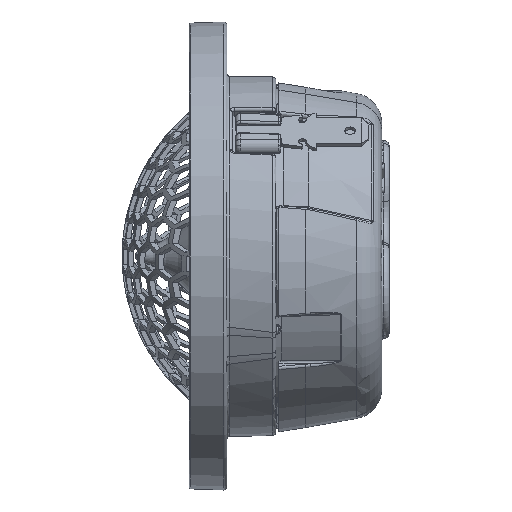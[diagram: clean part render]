
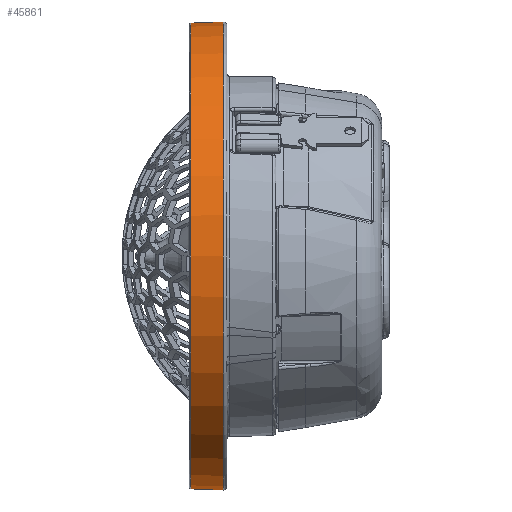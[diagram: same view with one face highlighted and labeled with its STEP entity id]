
A CAD part, left-side view. The second image highlights one B-rep face of the part: STEP entity #45861.
In plain terms, the highlighted conical face has half-angle 2 degrees and reference radius 30.975 mm.
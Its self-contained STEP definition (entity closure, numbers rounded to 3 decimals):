
#1538 = DIRECTION ( 'NONE',  ( 0., -1., 0. ) ) ;
#6438 = CARTESIAN_POINT ( 'NONE',  ( 0., 20.995, -30.957 ) ) ;
#12397 = VERTEX_POINT ( 'NONE', #28857 ) ;
#12883 = DIRECTION ( 'NONE',  ( 0., -0.999, 0.035 ) ) ;
#13838 = ORIENTED_EDGE ( 'NONE', *, *, #67620, .T. ) ;
#15044 = CARTESIAN_POINT ( 'NONE',  ( 0., 25.284, 30.807 ) ) ;
#15662 = CONICAL_SURFACE ( 'NONE', #22123, 30.975, 0.035 ) ;
#16483 = DIRECTION ( 'NONE',  ( 0., -0.999, -0.035 ) ) ;
#16784 = CARTESIAN_POINT ( 'NONE',  ( 0., 20.995, 0. ) ) ;
#19343 = CARTESIAN_POINT ( 'NONE',  ( 0., 20.477, 0. ) ) ;
#19581 = EDGE_CURVE ( 'NONE', #12397, #28747, #41151, .T. ) ;
#19912 = VECTOR ( 'NONE', #12883, 1000. ) ;
#20956 = DIRECTION ( 'NONE',  ( 0., 0., 1. ) ) ;
#22123 = AXIS2_PLACEMENT_3D ( 'NONE', #19343, #1538, #20956 ) ;
#22555 = CARTESIAN_POINT ( 'NONE',  ( 0., 20.477, -30.975 ) ) ;
#25400 = LINE ( 'NONE', #44841, #19912 ) ;
#26866 = DIRECTION ( 'NONE',  ( 0., -1., 0. ) ) ;
#28747 = VERTEX_POINT ( 'NONE', #6438 ) ;
#28857 = CARTESIAN_POINT ( 'NONE',  ( 0., 25.284, -30.807 ) ) ;
#30109 = EDGE_CURVE ( 'NONE', #56564, #12397, #46882, .T. ) ;
#32707 = FACE_OUTER_BOUND ( 'NONE', #79857, .T. ) ;
#34573 = VECTOR ( 'NONE', #16483, 1000. ) ;
#37399 = VERTEX_POINT ( 'NONE', #75450 ) ;
#41151 = LINE ( 'NONE', #22555, #34573 ) ;
#44841 = CARTESIAN_POINT ( 'NONE',  ( 0., 20.477, 30.975 ) ) ;
#45103 = DIRECTION ( 'NONE',  ( 0., 0., 1. ) ) ;
#45861 = ADVANCED_FACE ( 'NONE', ( #32707 ), #15662, .T. ) ;
#46101 = ORIENTED_EDGE ( 'NONE', *, *, #30109, .T. ) ;
#46882 = CIRCLE ( 'NONE', #64988, 30.807 ) ;
#56564 = VERTEX_POINT ( 'NONE', #15044 ) ;
#58124 = AXIS2_PLACEMENT_3D ( 'NONE', #16784, #64944, #72150 ) ;
#61370 = EDGE_CURVE ( 'NONE', #56564, #37399, #25400, .T. ) ;
#64944 = DIRECTION ( 'NONE',  ( 0., 1., 0. ) ) ;
#64988 = AXIS2_PLACEMENT_3D ( 'NONE', #75786, #26866, #45103 ) ;
#67620 = EDGE_CURVE ( 'NONE', #28747, #37399, #72295, .T. ) ;
#72150 = DIRECTION ( 'NONE',  ( 0., 0., -1. ) ) ;
#72295 = CIRCLE ( 'NONE', #58124, 30.957 ) ;
#74775 = ORIENTED_EDGE ( 'NONE', *, *, #61370, .F. ) ;
#75450 = CARTESIAN_POINT ( 'NONE',  ( 0., 20.995, 30.957 ) ) ;
#75786 = CARTESIAN_POINT ( 'NONE',  ( 0., 25.284, 0. ) ) ;
#75909 = ORIENTED_EDGE ( 'NONE', *, *, #19581, .T. ) ;
#79857 = EDGE_LOOP ( 'NONE', ( #46101, #75909, #13838, #74775 ) ) ;
